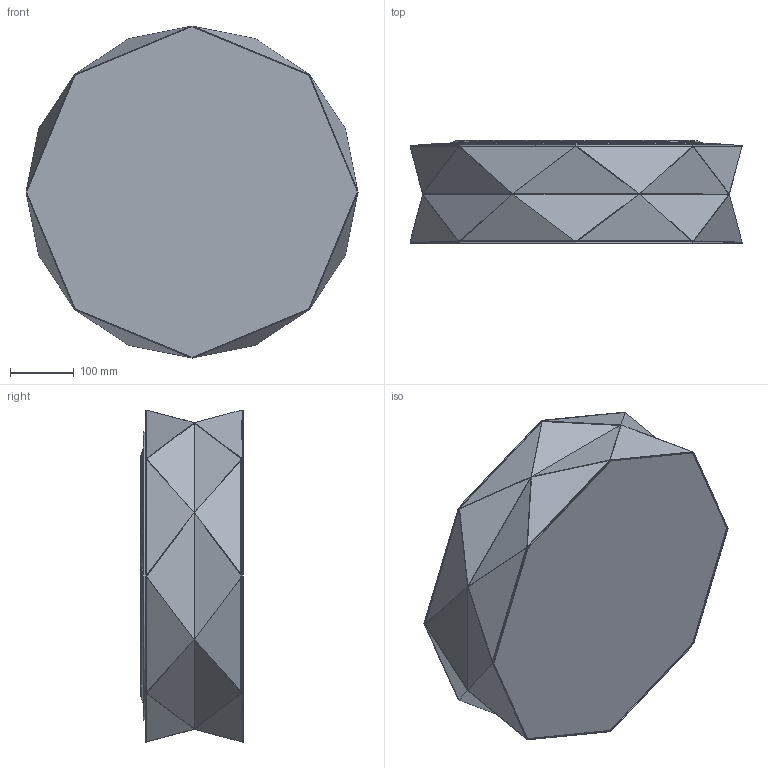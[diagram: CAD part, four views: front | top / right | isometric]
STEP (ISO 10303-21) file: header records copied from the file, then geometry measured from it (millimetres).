
FILE_DESCRIPTION(/* description */ (''),/* implementation_level */ '2;1');
FILE_NAME(/* name */ 'C:/Users/kubaw/OneDrive/Pulpit/3D/JAKUB_WIECZORKOWSKI_MAJ_PACZKA/OK/1565_KANTOOR v5.step',/* time_stamp */ '2021-06-25T20:39:52+02:00',/* author */ (''),/* organization */ (''),/* preprocessor_version */ 'ST-DEVELOPER v18.1',/* originating_system */ 'Autodesk Translation Framework v10.9.0.1377',/* authorisation */ '');
FILE_SCHEMA (('AUTOMOTIVE_DESIGN { 1 0 10303 214 3 1 1 }'));
Length unit declared in the file: millimetre
Products named in the file (2): 1565_KANTOOR; POKRYWA_KANTOOR_1565
Assembly tree (1 placements, depth 2):
  1565_KANTOOR
    POKRYWA_KANTOOR_1565
Bounding box: 520 x 161 x 520 mm (x, y, z)
Volume: 808592.1 mm3; surface area: 1256602.6 mm2
Topology: 19 solids, 19 shells, 279 faces, 581 edges, 339 vertices
Faces by surface type: plane 229, bspline 32, cylinder 17, torus 1
Full cylindrical faces by diameter (mm): 3 x3, 14.8 x3, 38 x3, 40 x3, 45 x3, 449.92 x1, 451.4 x1
Entity records: 8506 total; most frequent: CARTESIAN_POINT 2592, DIRECTION 1179, ORIENTED_EDGE 1162, EDGE_CURVE 581, LINE 483, VECTOR 483, AXIS2_PLACEMENT_3D 348, VERTEX_POINT 339
